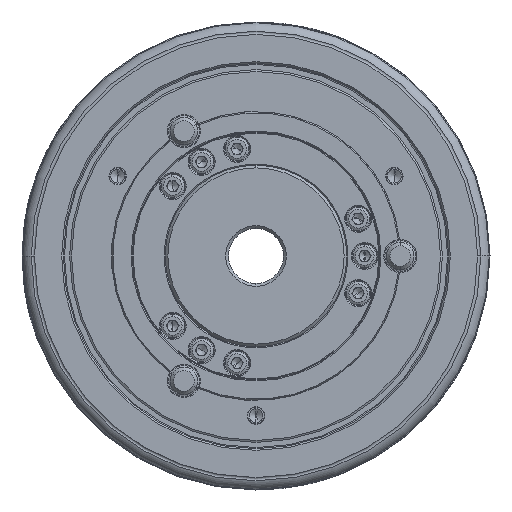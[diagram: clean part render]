
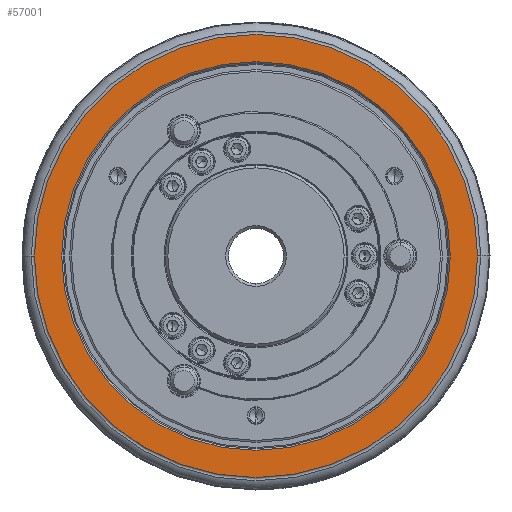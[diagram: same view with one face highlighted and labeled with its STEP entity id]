
A CAD part, left-side view. The second image highlights one B-rep face of the part: STEP entity #57001.
In plain terms, the highlighted planar face has unit normal (-1, 0, 0).
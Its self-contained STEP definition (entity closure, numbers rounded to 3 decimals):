
#3006 = DIRECTION ( 'NONE',  ( 1., 0., 0. ) ) ;
#4427 = PLANE ( 'NONE',  #52191 ) ;
#7470 = AXIS2_PLACEMENT_3D ( 'NONE', #15709, #29667, #51065 ) ;
#9199 = EDGE_CURVE ( 'NONE', #24751, #26607, #75303, .T. ) ;
#9510 = CIRCLE ( 'NONE', #74823, 80.5 ) ;
#10886 = CARTESIAN_POINT ( 'NONE',  ( -81., 0., 0. ) ) ;
#11676 = CIRCLE ( 'NONE', #65100, 80.5 ) ;
#15709 = CARTESIAN_POINT ( 'NONE',  ( -81., 0., 0. ) ) ;
#17562 = CARTESIAN_POINT ( 'NONE',  ( -81., 80.5, 0. ) ) ;
#18326 = DIRECTION ( 'NONE',  ( 0., 1., 0. ) ) ;
#18950 = EDGE_CURVE ( 'NONE', #65998, #52430, #11676, .T. ) ;
#24751 = VERTEX_POINT ( 'NONE', #84870 ) ;
#24900 = DIRECTION ( 'NONE',  ( 0., 0., 1. ) ) ;
#26607 = VERTEX_POINT ( 'NONE', #45002 ) ;
#28313 = EDGE_LOOP ( 'NONE', ( #72818, #91773 ) ) ;
#29181 = CARTESIAN_POINT ( 'NONE',  ( -81., 0., 0. ) ) ;
#29667 = DIRECTION ( 'NONE',  ( 1., 0., 0. ) ) ;
#31881 = CARTESIAN_POINT ( 'NONE',  ( -81., 35.3, -61.141 ) ) ;
#32286 = DIRECTION ( 'NONE',  ( 1., 0., 0. ) ) ;
#45002 = CARTESIAN_POINT ( 'NONE',  ( -81., 0., -70.6 ) ) ;
#45768 = CARTESIAN_POINT ( 'NONE',  ( -81., 0., 0. ) ) ;
#46296 = FACE_OUTER_BOUND ( 'NONE', #76339, .T. ) ;
#51033 = DIRECTION ( 'NONE',  ( 0., 0., -1. ) ) ;
#51065 = DIRECTION ( 'NONE',  ( 0., 0., -1. ) ) ;
#52191 = AXIS2_PLACEMENT_3D ( 'NONE', #31881, #88554, #24900 ) ;
#52430 = VERTEX_POINT ( 'NONE', #17562 ) ;
#52760 = DIRECTION ( 'NONE',  ( 0., 1., 0. ) ) ;
#55526 = ORIENTED_EDGE ( 'NONE', *, *, #76264, .F. ) ;
#57001 = ADVANCED_FACE ( 'NONE', ( #46296, #89017 ), #4427, .T. ) ;
#64073 = DIRECTION ( 'NONE',  ( 1., 0., 0. ) ) ;
#65100 = AXIS2_PLACEMENT_3D ( 'NONE', #10886, #32286, #18326 ) ;
#65812 = ORIENTED_EDGE ( 'NONE', *, *, #18950, .F. ) ;
#65998 = VERTEX_POINT ( 'NONE', #69209 ) ;
#69209 = CARTESIAN_POINT ( 'NONE',  ( -81., -80.5, 0. ) ) ;
#69352 = AXIS2_PLACEMENT_3D ( 'NONE', #29181, #64073, #51033 ) ;
#71335 = CIRCLE ( 'NONE', #7470, 70.6 ) ;
#72818 = ORIENTED_EDGE ( 'NONE', *, *, #9199, .T. ) ;
#74823 = AXIS2_PLACEMENT_3D ( 'NONE', #45768, #3006, #52760 ) ;
#75303 = CIRCLE ( 'NONE', #69352, 70.6 ) ;
#76264 = EDGE_CURVE ( 'NONE', #52430, #65998, #9510, .T. ) ;
#76339 = EDGE_LOOP ( 'NONE', ( #55526, #65812 ) ) ;
#82373 = EDGE_CURVE ( 'NONE', #26607, #24751, #71335, .T. ) ;
#84870 = CARTESIAN_POINT ( 'NONE',  ( -81., 0., 70.6 ) ) ;
#88554 = DIRECTION ( 'NONE',  ( -1., 0., 0. ) ) ;
#89017 = FACE_BOUND ( 'NONE', #28313, .T. ) ;
#91773 = ORIENTED_EDGE ( 'NONE', *, *, #82373, .T. ) ;
